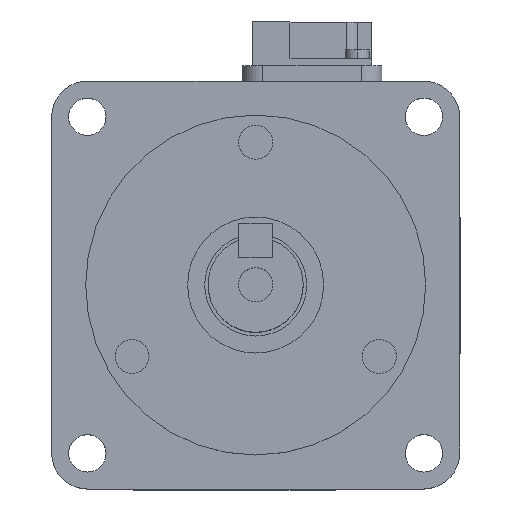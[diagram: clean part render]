
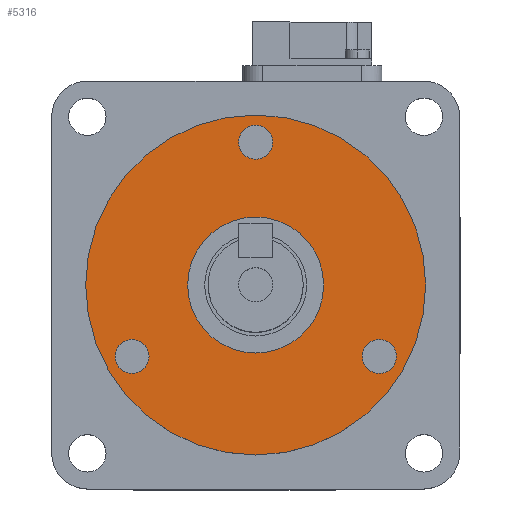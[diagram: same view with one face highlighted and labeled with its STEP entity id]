
A CAD part, top view. The second image highlights one B-rep face of the part: STEP entity #5316.
In plain terms, the highlighted planar face has unit normal (0, 0, 1).
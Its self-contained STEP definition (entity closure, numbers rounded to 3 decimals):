
#3853 = VERTEX_POINT ( 'NONE', #11834 ) ;
#3857 = EDGE_CURVE ( 'NONE', #3885, #3858, #11829, .T. ) ;
#3858 = VERTEX_POINT ( 'NONE', #11824 ) ;
#3869 = VERTEX_POINT ( 'NONE', #11865 ) ;
#3885 = VERTEX_POINT ( 'NONE', #11898 ) ;
#3900 = EDGE_CURVE ( 'NONE', #3901, #3902, #11931, .T. ) ;
#3901 = VERTEX_POINT ( 'NONE', #11927 ) ;
#3902 = VERTEX_POINT ( 'NONE', #11926 ) ;
#3910 = EDGE_CURVE ( 'NONE', #3853, #3911, #11979, .T. ) ;
#3911 = VERTEX_POINT ( 'NONE', #11974 ) ;
#3926 = EDGE_CURVE ( 'NONE', #3869, #3927, #12008, .T. ) ;
#3927 = VERTEX_POINT ( 'NONE', #12004 ) ;
#3968 = EDGE_CURVE ( 'NONE', #3969, #3970, #12047, .T. ) ;
#3969 = VERTEX_POINT ( 'NONE', #12102 ) ;
#3970 = VERTEX_POINT ( 'NONE', #12101 ) ;
#5295 = ORIENTED_EDGE ( 'NONE', *, *, #3857, .F. ) ;
#5296 = ORIENTED_EDGE ( 'NONE', *, *, #5297, .F. ) ;
#5297 = EDGE_CURVE ( 'NONE', #3927, #3869, #14474, .T. ) ;
#5298 = ORIENTED_EDGE ( 'NONE', *, *, #3926, .F. ) ;
#5299 = EDGE_LOOP ( 'NONE', ( #5300, #5302 ) ) ;
#5300 = ORIENTED_EDGE ( 'NONE', *, *, #5301, .F. ) ;
#5301 = EDGE_CURVE ( 'NONE', #3911, #3853, #14469, .T. ) ;
#5302 = ORIENTED_EDGE ( 'NONE', *, *, #3910, .F. ) ;
#5303 = EDGE_LOOP ( 'NONE', ( #5304, #5306 ) ) ;
#5304 = ORIENTED_EDGE ( 'NONE', *, *, #5305, .T. ) ;
#5305 = EDGE_CURVE ( 'NONE', #3902, #3901, #14464, .T. ) ;
#5306 = ORIENTED_EDGE ( 'NONE', *, *, #3900, .T. ) ;
#5307 = EDGE_LOOP ( 'NONE', ( #5359, #5360 ) ) ;
#5316 = ADVANCED_FACE ( 'NONE', ( #14514, #14513, #14512, #14511, #14510 ), #14509, .T. ) ;
#5317 = EDGE_LOOP ( 'NONE', ( #5318, #5295 ) ) ;
#5318 = ORIENTED_EDGE ( 'NONE', *, *, #5319, .F. ) ;
#5319 = EDGE_CURVE ( 'NONE', #3858, #3885, #14504, .T. ) ;
#5320 = EDGE_LOOP ( 'NONE', ( #5296, #5298 ) ) ;
#5359 = ORIENTED_EDGE ( 'NONE', *, *, #3968, .F. ) ;
#5360 = ORIENTED_EDGE ( 'NONE', *, *, #5361, .F. ) ;
#5361 = EDGE_CURVE ( 'NONE', #3970, #3969, #14581, .T. ) ;
#11824 = CARTESIAN_POINT ( 'NONE',  ( 20.687, -10.5, 3. ) ) ;
#11825 = DIRECTION ( 'NONE',  ( -0.5, -0.866, 0. ) ) ;
#11826 = DIRECTION ( 'NONE',  ( 0., 0., 1. ) ) ;
#11827 = CARTESIAN_POINT ( 'NONE',  ( 18.187, -10.5, 3. ) ) ;
#11828 = AXIS2_PLACEMENT_3D ( 'NONE', #11827, #11826, #11825 ) ;
#11829 = CIRCLE ( 'NONE', #11828, 2.5 ) ;
#11834 = CARTESIAN_POINT ( 'NONE',  ( -2.5, 21., 3. ) ) ;
#11865 = CARTESIAN_POINT ( 'NONE',  ( -20.687, -10.5, 3. ) ) ;
#11898 = CARTESIAN_POINT ( 'NONE',  ( 15.687, -10.5, 3. ) ) ;
#11926 = CARTESIAN_POINT ( 'NONE',  ( -10., 0., 3. ) ) ;
#11927 = CARTESIAN_POINT ( 'NONE',  ( 10., 0., 3. ) ) ;
#11928 = DIRECTION ( 'NONE',  ( -1., 0., 0. ) ) ;
#11929 = DIRECTION ( 'NONE',  ( 0., 0., -1. ) ) ;
#11930 = AXIS2_PLACEMENT_3D ( 'NONE', #11937, #11929, #11928 ) ;
#11931 = CIRCLE ( 'NONE', #11930, 10. ) ;
#11937 = CARTESIAN_POINT ( 'NONE',  ( 0., 0., 3. ) ) ;
#11951 = CARTESIAN_POINT ( 'NONE',  ( -18.187, -10.5, 3. ) ) ;
#11974 = CARTESIAN_POINT ( 'NONE',  ( 2.5, 21., 3. ) ) ;
#11975 = DIRECTION ( 'NONE',  ( 1., 0., 0. ) ) ;
#11976 = DIRECTION ( 'NONE',  ( 0., 0., 1. ) ) ;
#11977 = CARTESIAN_POINT ( 'NONE',  ( 0., 21., 3. ) ) ;
#11978 = AXIS2_PLACEMENT_3D ( 'NONE', #11977, #11976, #11975 ) ;
#11979 = CIRCLE ( 'NONE', #11978, 2.5 ) ;
#12004 = CARTESIAN_POINT ( 'NONE',  ( -15.687, -10.5, 3. ) ) ;
#12005 = DIRECTION ( 'NONE',  ( -0.5, 0.866, 0. ) ) ;
#12006 = DIRECTION ( 'NONE',  ( 0., 0., 1. ) ) ;
#12007 = AXIS2_PLACEMENT_3D ( 'NONE', #11951, #12006, #12005 ) ;
#12008 = CIRCLE ( 'NONE', #12007, 2.5 ) ;
#12047 = CIRCLE ( 'NONE', #12106, 25. ) ;
#12101 = CARTESIAN_POINT ( 'NONE',  ( 25., 0., 3. ) ) ;
#12102 = CARTESIAN_POINT ( 'NONE',  ( -25., 0., 3. ) ) ;
#12103 = DIRECTION ( 'NONE',  ( -1., 0., 0. ) ) ;
#12104 = DIRECTION ( 'NONE',  ( 0., 0., -1. ) ) ;
#12105 = CARTESIAN_POINT ( 'NONE',  ( 0., 0., 3. ) ) ;
#12106 = AXIS2_PLACEMENT_3D ( 'NONE', #12105, #12104, #12103 ) ;
#14460 = DIRECTION ( 'NONE',  ( -1., 0., 0. ) ) ;
#14461 = DIRECTION ( 'NONE',  ( 0., 0., -1. ) ) ;
#14462 = CARTESIAN_POINT ( 'NONE',  ( 0., 0., 3. ) ) ;
#14463 = AXIS2_PLACEMENT_3D ( 'NONE', #14462, #14461, #14460 ) ;
#14464 = CIRCLE ( 'NONE', #14463, 10. ) ;
#14465 = DIRECTION ( 'NONE',  ( 1., 0., 0. ) ) ;
#14466 = DIRECTION ( 'NONE',  ( 0., 0., 1. ) ) ;
#14467 = CARTESIAN_POINT ( 'NONE',  ( 0., 21., 3. ) ) ;
#14468 = AXIS2_PLACEMENT_3D ( 'NONE', #14467, #14466, #14465 ) ;
#14469 = CIRCLE ( 'NONE', #14468, 2.5 ) ;
#14470 = DIRECTION ( 'NONE',  ( -0.5, 0.866, 0. ) ) ;
#14471 = DIRECTION ( 'NONE',  ( 0., 0., 1. ) ) ;
#14472 = CARTESIAN_POINT ( 'NONE',  ( -18.187, -10.5, 3. ) ) ;
#14473 = AXIS2_PLACEMENT_3D ( 'NONE', #14472, #14471, #14470 ) ;
#14474 = CIRCLE ( 'NONE', #14473, 2.5 ) ;
#14500 = DIRECTION ( 'NONE',  ( -0.5, -0.866, 0. ) ) ;
#14501 = DIRECTION ( 'NONE',  ( 0., 0., 1. ) ) ;
#14502 = CARTESIAN_POINT ( 'NONE',  ( 18.187, -10.5, 3. ) ) ;
#14503 = AXIS2_PLACEMENT_3D ( 'NONE', #14502, #14501, #14500 ) ;
#14504 = CIRCLE ( 'NONE', #14503, 2.5 ) ;
#14505 = DIRECTION ( 'NONE',  ( 1., 0., 0. ) ) ;
#14506 = DIRECTION ( 'NONE',  ( 0., 0., 1. ) ) ;
#14507 = CARTESIAN_POINT ( 'NONE',  ( 0., 25., 3. ) ) ;
#14508 = AXIS2_PLACEMENT_3D ( 'NONE', #14507, #14506, #14505 ) ;
#14509 = PLANE ( 'NONE',  #14508 ) ;
#14510 = FACE_OUTER_BOUND ( 'NONE', #5307, .T. ) ;
#14511 = FACE_BOUND ( 'NONE', #5303, .T. ) ;
#14512 = FACE_BOUND ( 'NONE', #5299, .T. ) ;
#14513 = FACE_BOUND ( 'NONE', #5320, .T. ) ;
#14514 = FACE_BOUND ( 'NONE', #5317, .T. ) ;
#14578 = DIRECTION ( 'NONE',  ( -1., 0., 0. ) ) ;
#14579 = DIRECTION ( 'NONE',  ( 0., 0., -1. ) ) ;
#14580 = AXIS2_PLACEMENT_3D ( 'NONE', #14586, #14579, #14578 ) ;
#14581 = CIRCLE ( 'NONE', #14580, 25. ) ;
#14586 = CARTESIAN_POINT ( 'NONE',  ( 0., 0., 3. ) ) ;
